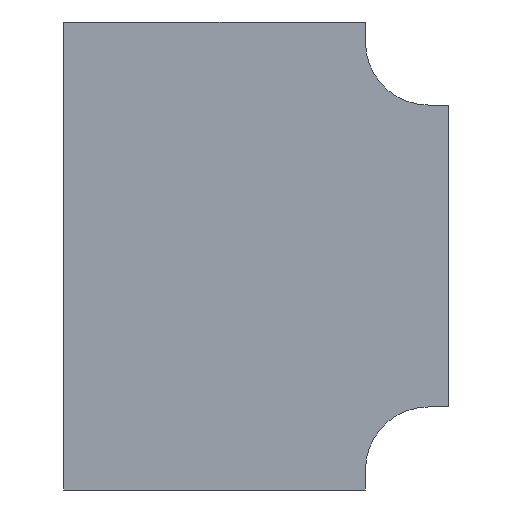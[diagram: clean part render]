
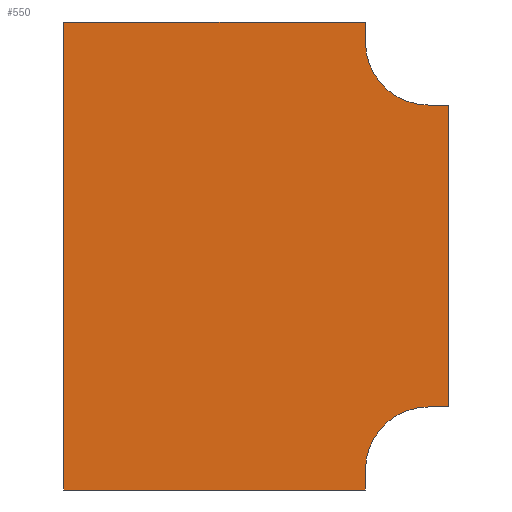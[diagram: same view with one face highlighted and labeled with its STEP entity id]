
A CAD part, front view. The second image highlights one B-rep face of the part: STEP entity #550.
In plain terms, the highlighted planar face has unit normal (0, -1, 0).
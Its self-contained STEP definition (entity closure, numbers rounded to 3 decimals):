
#7 = ORIENTED_EDGE ( 'NONE', *, *, #1838, .F. ) ;
#26 = LINE ( 'NONE', #195, #2218 ) ;
#38 = AXIS2_PLACEMENT_3D ( 'NONE', #148, #896, #2347 ) ;
#47 = DIRECTION ( 'NONE',  ( 1., 0., 0. ) ) ;
#52 = CARTESIAN_POINT ( 'NONE',  ( -725., 0., -890. ) ) ;
#98 = VECTOR ( 'NONE', #1401, 1000. ) ;
#138 = VERTEX_POINT ( 'NONE', #1250 ) ;
#148 = CARTESIAN_POINT ( 'NONE',  ( 0., 0., -850. ) ) ;
#195 = CARTESIAN_POINT ( 'NONE',  ( -125., 0., 40. ) ) ;
#203 = DIRECTION ( 'NONE',  ( 0., 0., -1. ) ) ;
#251 = VERTEX_POINT ( 'NONE', #2035 ) ;
#303 = AXIS2_PLACEMENT_3D ( 'NONE', #1272, #1990, #1585 ) ;
#320 = CARTESIAN_POINT ( 'NONE',  ( -725., 0., -890. ) ) ;
#325 = LINE ( 'NONE', #1213, #1316 ) ;
#363 = ORIENTED_EDGE ( 'NONE', *, *, #887, .F. ) ;
#372 = EDGE_CURVE ( 'NONE', #994, #251, #1193, .T. ) ;
#379 = VECTOR ( 'NONE', #597, 1000. ) ;
#408 = CARTESIAN_POINT ( 'NONE',  ( -725., 0., 40. ) ) ;
#479 = DIRECTION ( 'NONE',  ( 0., 0., 1. ) ) ;
#486 = CARTESIAN_POINT ( 'NONE',  ( 0., 0., -125. ) ) ;
#513 = VERTEX_POINT ( 'NONE', #1936 ) ;
#520 = ORIENTED_EDGE ( 'NONE', *, *, #1310, .F. ) ;
#550 = ADVANCED_FACE ( 'NONE', ( #1450 ), #2165, .T. ) ;
#565 = ORIENTED_EDGE ( 'NONE', *, *, #1434, .F. ) ;
#597 = DIRECTION ( 'NONE',  ( -1., 0., 0. ) ) ;
#612 = LINE ( 'NONE', #408, #678 ) ;
#622 = EDGE_CURVE ( 'NONE', #138, #994, #766, .T. ) ;
#652 = ORIENTED_EDGE ( 'NONE', *, *, #372, .F. ) ;
#678 = VECTOR ( 'NONE', #47, 1000. ) ;
#689 = CARTESIAN_POINT ( 'NONE',  ( -125., 0., -890. ) ) ;
#758 = DIRECTION ( 'NONE',  ( 0., 0., -1. ) ) ;
#766 = CIRCLE ( 'NONE', #1819, 125. ) ;
#781 = LINE ( 'NONE', #52, #379 ) ;
#846 = LINE ( 'NONE', #1579, #98 ) ;
#871 = DIRECTION ( 'NONE',  ( 0., 0., -1. ) ) ;
#882 = CARTESIAN_POINT ( 'NONE',  ( -725., 0., -890. ) ) ;
#887 = EDGE_CURVE ( 'NONE', #513, #1774, #1144, .T. ) ;
#896 = DIRECTION ( 'NONE',  ( 0., -1., 0. ) ) ;
#910 = CARTESIAN_POINT ( 'NONE',  ( 40., 0., -725. ) ) ;
#994 = VERTEX_POINT ( 'NONE', #1834 ) ;
#1144 = CIRCLE ( 'NONE', #38, 125. ) ;
#1181 = DIRECTION ( 'NONE',  ( 1., 0., 0. ) ) ;
#1183 = CARTESIAN_POINT ( 'NONE',  ( -725., 0., 40. ) ) ;
#1193 = LINE ( 'NONE', #486, #1953 ) ;
#1213 = CARTESIAN_POINT ( 'NONE',  ( 40., 0., -125. ) ) ;
#1250 = CARTESIAN_POINT ( 'NONE',  ( -125., 0., 0. ) ) ;
#1272 = CARTESIAN_POINT ( 'NONE',  ( 0., 0., 0. ) ) ;
#1310 = EDGE_CURVE ( 'NONE', #251, #1905, #325, .T. ) ;
#1311 = LINE ( 'NONE', #2205, #2063 ) ;
#1316 = VECTOR ( 'NONE', #871, 1000. ) ;
#1331 = ORIENTED_EDGE ( 'NONE', *, *, #622, .F. ) ;
#1401 = DIRECTION ( 'NONE',  ( -1., 0., 0. ) ) ;
#1434 = EDGE_CURVE ( 'NONE', #1945, #138, #26, .T. ) ;
#1450 = FACE_OUTER_BOUND ( 'NONE', #1714, .T. ) ;
#1462 = EDGE_CURVE ( 'NONE', #2167, #2127, #781, .T. ) ;
#1463 = CARTESIAN_POINT ( 'NONE',  ( 0., 0., 0. ) ) ;
#1500 = DIRECTION ( 'NONE',  ( 0., -1., 0. ) ) ;
#1526 = ORIENTED_EDGE ( 'NONE', *, *, #1730, .F. ) ;
#1552 = ORIENTED_EDGE ( 'NONE', *, *, #1870, .F. ) ;
#1579 = CARTESIAN_POINT ( 'NONE',  ( 0., 0., -725. ) ) ;
#1585 = DIRECTION ( 'NONE',  ( 0., 0., -1. ) ) ;
#1648 = CARTESIAN_POINT ( 'NONE',  ( -125., 0., 40. ) ) ;
#1714 = EDGE_LOOP ( 'NONE', ( #2193, #1526, #1930, #1552, #363, #7, #520, #652, #1331, #565 ) ) ;
#1730 = EDGE_CURVE ( 'NONE', #2127, #2108, #2107, .T. ) ;
#1755 = CARTESIAN_POINT ( 'NONE',  ( -125., 0., -850. ) ) ;
#1774 = VERTEX_POINT ( 'NONE', #1755 ) ;
#1819 = AXIS2_PLACEMENT_3D ( 'NONE', #1463, #1500, #203 ) ;
#1834 = CARTESIAN_POINT ( 'NONE',  ( 0., 0., -125. ) ) ;
#1838 = EDGE_CURVE ( 'NONE', #1905, #513, #846, .T. ) ;
#1870 = EDGE_CURVE ( 'NONE', #1774, #2167, #1311, .T. ) ;
#1880 = VECTOR ( 'NONE', #479, 1000. ) ;
#1905 = VERTEX_POINT ( 'NONE', #910 ) ;
#1930 = ORIENTED_EDGE ( 'NONE', *, *, #1462, .F. ) ;
#1936 = CARTESIAN_POINT ( 'NONE',  ( 0., 0., -725. ) ) ;
#1945 = VERTEX_POINT ( 'NONE', #1648 ) ;
#1953 = VECTOR ( 'NONE', #1181, 1000. ) ;
#1990 = DIRECTION ( 'NONE',  ( 0., -1., 0. ) ) ;
#1998 = DIRECTION ( 'NONE',  ( 0., 0., -1. ) ) ;
#2035 = CARTESIAN_POINT ( 'NONE',  ( 40., 0., -125. ) ) ;
#2063 = VECTOR ( 'NONE', #1998, 1000. ) ;
#2107 = LINE ( 'NONE', #882, #1880 ) ;
#2108 = VERTEX_POINT ( 'NONE', #1183 ) ;
#2127 = VERTEX_POINT ( 'NONE', #320 ) ;
#2165 = PLANE ( 'NONE',  #303 ) ;
#2167 = VERTEX_POINT ( 'NONE', #689 ) ;
#2193 = ORIENTED_EDGE ( 'NONE', *, *, #2291, .F. ) ;
#2205 = CARTESIAN_POINT ( 'NONE',  ( -125., 0., -890. ) ) ;
#2218 = VECTOR ( 'NONE', #758, 1000. ) ;
#2291 = EDGE_CURVE ( 'NONE', #2108, #1945, #612, .T. ) ;
#2347 = DIRECTION ( 'NONE',  ( 0., 0., 1. ) ) ;
